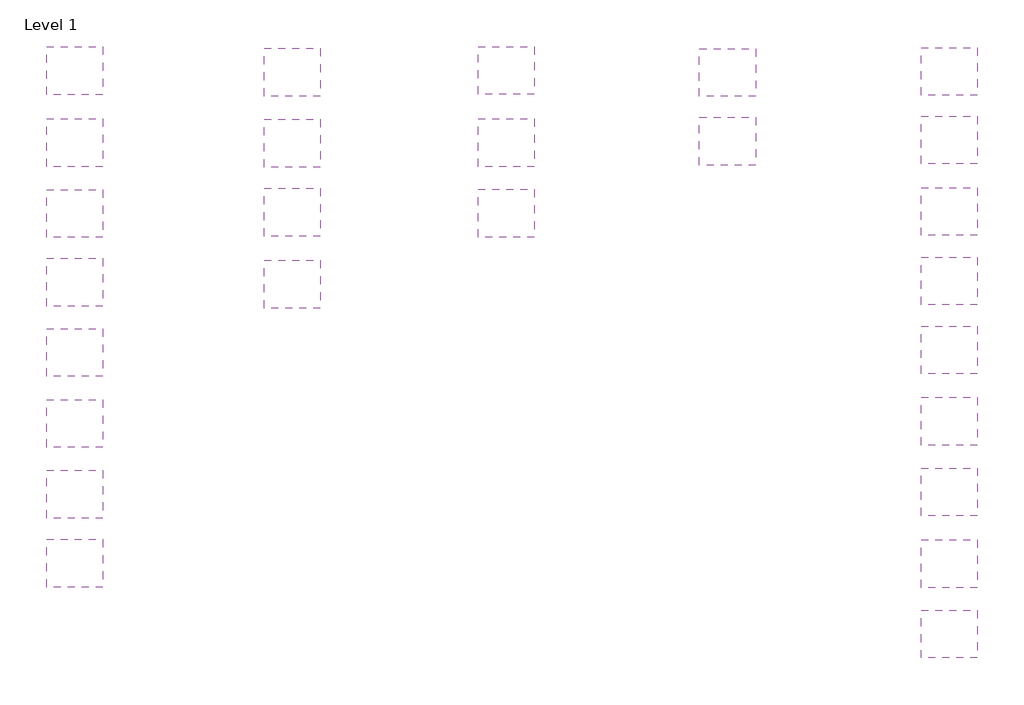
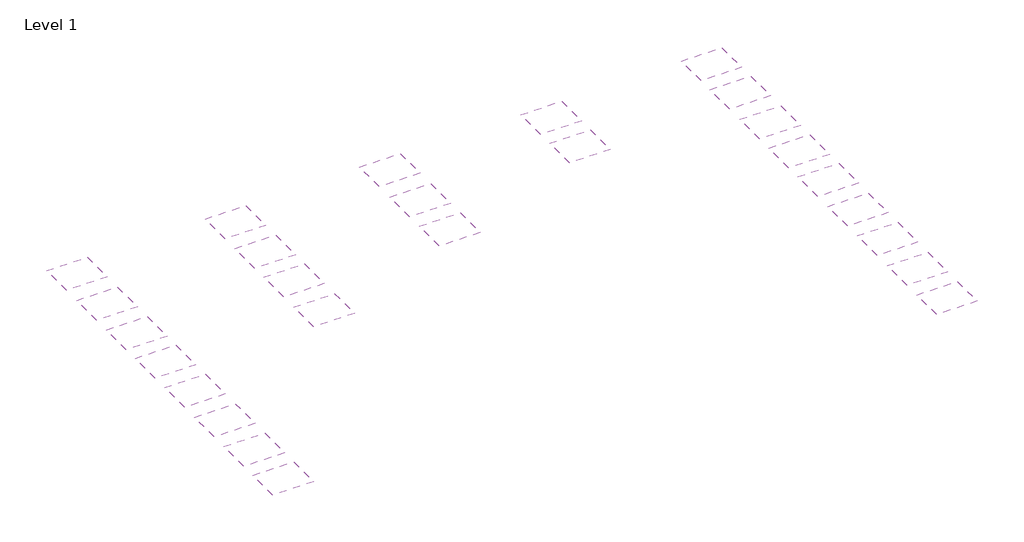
# One storey: 26 coverings.
"""IFC4 building model written with IfcOpenShell, lengths in millimetres."""

from ifc_helpers import new_model, si_unit, frame, origin, place, context, project, spatial, polyline, outline, extrude, element, save

model = new_model("IFC4")

# Units and contexts
model_context = context("Model", 3, world=origin())
ifc_project = project(units=[si_unit("LENGTHUNIT", "METRE", prefix="MILLI")], contexts=[model_context])

# Site, building, storey
site = spatial("IfcSite", under=ifc_project)
building = spatial("IfcBuilding", under=site)
storey = spatial("IfcBuildingStorey", under=building, Name="Level 1", Elevation=0.0)

# Coverings
placement = place(None, origin())
element("IfcCovering", 1, ObjectType="LD AP+ 400 FF", at=placement, inside=storey, context=model_context, shape_type="SweptSolid", body=[
    extrude(outline(polyline([(-26482.5188823, -45919.1829499), (-26482.5188823, -49319.1829499), (-30482.5188823, -49319.1829499), (-30482.5188823, -45919.1829499), (-26482.5188823, -45919.1829499)])), frame((0.0, 0.0, 5277.5), z_axis=(0.0, 0.0, 1.0), x_axis=(1.0, 0.0, 0.0)), (0.0, 0.0, 1.0), 55.0000018),
])
element("IfcCovering", 2, ObjectType="LD AP+ 400 AA", at=placement, inside=storey, context=model_context, shape_type="SweptSolid", body=[
    extrude(outline(polyline([(-26482.5188823, -30939.0532588), (-26482.5188823, -34339.0532588), (-30482.5188823, -34339.0532588), (-30482.5188823, -30939.0532588), (-26482.5188823, -30939.0532588)])), frame((0.0, 0.0, 5277.5), z_axis=(0.0, 0.0, 1.0), x_axis=(1.0, 0.0, 0.0)), (0.0, 0.0, 1.0), 50.0000016),
])
element("IfcCovering", 3, ObjectType="LD CD1 312 LL", at=placement, inside=storey, context=model_context, shape_type="SweptSolid", body=[
    extrude(outline(polyline([(-26482.5188823, -25939.3429611), (-26482.5188823, -29339.3429611), (-30482.5188823, -29339.3429611), (-30482.5188823, -25939.3429611), (-26482.5188823, -25939.3429611)])), frame((0.0, 0.0, 5277.5), z_axis=(0.0, 0.0, 1.0), x_axis=(1.0, 0.0, 0.0)), (0.0, 0.0, 1.0), 70.0000022),
])
element("IfcCovering", 4, ObjectType="LD CD1 450 FF", at=placement, inside=storey, context=model_context, shape_type="SweptSolid", body=[
    extrude(outline(polyline([(-26482.5188823, -35988.8759683), (-26482.5188823, -39388.8759683), (-30482.5188823, -39388.8759683), (-30482.5188823, -35988.8759683), (-26482.5188823, -35988.8759683)])), frame((0.0, 0.0, 5277.5), z_axis=(0.0, 0.0, 1.0), x_axis=(1.0, 0.0, 0.0)), (0.0, 0.0, 1.0), 70.0000022),
])
element("IfcCovering", 5, ObjectType="LD CD1 450 AA", at=placement, inside=storey, context=model_context, shape_type="SweptSolid", body=[
    extrude(outline(polyline([(-26482.5188823, -10905.5741733), (-26482.5188823, -14305.5741733), (-30482.5188823, -14305.5741733), (-30482.5188823, -10905.5741733), (-26482.5188823, -10905.5741733)])), frame((0.0, 0.0, 5277.5), z_axis=(0.0, 0.0, 1.0), x_axis=(1.0, 0.0, 0.0)), (0.0, 0.0, 1.0), 65.0000021),
])
element("IfcCovering", 6, ObjectType="LD S25 300 Plank", at=placement, inside=storey, context=model_context, shape_type="SweptSolid", body=[
    extrude(outline(polyline([(-26482.5188823, -21063.986899), (-26482.5188823, -24463.986899), (-30482.5188823, -24463.986899), (-30482.5188823, -21063.986899), (-26482.5188823, -21063.986899)])), frame((0.0, 0.0, 5277.5), z_axis=(0.0, 0.0, 1.0), x_axis=(1.0, 0.0, 0.0)), (0.0, 0.0, 1.0), 37.5000012),
])
element("IfcCovering", 7, ObjectType="LD S25 450 FF", at=placement, inside=storey, context=model_context, shape_type="SweptSolid", body=[
    extrude(outline(polyline([(-26482.5188823, -41007.384763), (-26482.5188823, -44407.384763), (-30482.5188823, -44407.384763), (-30482.5188823, -41007.384763), (-26482.5188823, -41007.384763)])), frame((0.0, 0.0, 5277.5), z_axis=(0.0, 0.0, 1.0), x_axis=(1.0, 0.0, 0.0)), (0.0, 0.0, 1.0), 55.0000018),
])
element("IfcCovering", 8, ObjectType="LD S25 450 AA", at=placement, inside=storey, context=model_context, shape_type="SweptSolid", body=[
    extrude(outline(polyline([(-26482.5188823, -16024.1004101), (-26482.5188823, -19424.1004101), (-30482.5188823, -19424.1004101), (-30482.5188823, -16024.1004101), (-26482.5188823, -16024.1004101)])), frame((0.0, 0.0, 5277.5), z_axis=(0.0, 0.0, 1.0), x_axis=(1.0, 0.0, 0.0)), (0.0, 0.0, 1.0), 50.0000016),
])
element("IfcCovering", 9, ObjectType="LN CD1 450 AA", at=placement, inside=storey, context=model_context, shape_type="SweptSolid", body=[
    extrude(outline(polyline([(-11012.1916508, -16072.5822959), (-11012.1916508, -19472.5822959), (-15012.1916508, -19472.5822959), (-15012.1916508, -16072.5822959), (-11012.1916508, -16072.5822959)])), frame((0.0, 0.0, 5277.5), z_axis=(0.0, 0.0, 1.0), x_axis=(1.0, 0.0, 0.0)), (0.0, 0.0, 1.0), 145.0000046),
])
element("IfcCovering", 10, ObjectType="LN CD2 300 QS", at=placement, inside=storey, context=model_context, shape_type="SweptSolid", body=[
    extrude(outline(polyline([(-11012.1916508, -26076.1994928), (-11012.1916508, -29476.1994928), (-15012.1916508, -29476.1994928), (-15012.1916508, -26076.1994928), (-11012.1916508, -26076.1994928)])), frame((0.0, 0.0, 5277.5), z_axis=(0.0, 0.0, 1.0), x_axis=(1.0, 0.0, 0.0)), (0.0, 0.0, 1.0), 175.0000056),
])
element("IfcCovering", 11, ObjectType="LN CD2 450 AA", at=placement, inside=storey, context=model_context, shape_type="SweptSolid", body=[
    extrude(outline(polyline([(-11012.1916508, -20974.0920899), (-11012.1916508, -24374.0920899), (-15012.1916508, -24374.0920899), (-15012.1916508, -20974.0920899), (-11012.1916508, -20974.0920899)])), frame((0.0, 0.0, 5277.5), z_axis=(0.0, 0.0, 1.0), x_axis=(1.0, 0.0, 0.0)), (0.0, 0.0, 1.0), 175.0000056),
])
element("IfcCovering", 12, ObjectType="LN P45-S25 450 AA", at=placement, inside=storey, context=model_context, shape_type="SweptSolid", body=[
    extrude(outline(polyline([(-11012.1916508, -11022.1896676), (-11012.1916508, -14422.1896676), (-15012.1916508, -14422.1896676), (-15012.1916508, -11022.1896676), (-11012.1916508, -11022.1896676)])), frame((0.0, 0.0, 5277.5), z_axis=(0.0, 0.0, 1.0), x_axis=(1.0, 0.0, 0.0)), (0.0, 0.0, 1.0), 125.000004),
])
element("IfcCovering", 13, ObjectType="LA CD2 AOP 450 LL", at=placement, inside=storey, context=model_context, shape_type="SweptSolid", body=[
    extrude(outline(polyline([(4198.1755462, -16038.491054), (4198.1755462, -19438.491054), (198.1755462, -19438.491054), (198.1755462, -16038.491054), (4198.1755462, -16038.491054)])), frame((0.0, 0.0, 5277.5), z_axis=(0.0, 0.0, 1.0), x_axis=(1.0, 0.0, 0.0)), (0.0, 0.0, 1.0), 185.0000059),
])
element("IfcCovering", 14, ObjectType="LA CD2 AOP 450 AA", at=placement, inside=storey, context=model_context, shape_type="SweptSolid", body=[
    extrude(outline(polyline([(4198.1755462, -21042.7586104), (4198.1755462, -24442.7586104), (198.1755462, -24442.7586104), (198.1755462, -21042.7586104), (4198.1755462, -21042.7586104)])), frame((0.0, 0.0, 5277.5), z_axis=(0.0, 0.0, 1.0), x_axis=(1.0, 0.0, 0.0)), (0.0, 0.0, 1.0), 185.0000059),
])
element("IfcCovering", 15, ObjectType="LA CD2 AOS 450 AA", at=placement, inside=storey, context=model_context, shape_type="SweptSolid", body=[
    extrude(outline(polyline([(4198.1755462, -10889.8696257), (4198.1755462, -14289.8696257), (198.1755462, -14289.8696257), (198.1755462, -10889.8696257), (4198.1755462, -10889.8696257)])), frame((0.0, 0.0, 5277.5), z_axis=(0.0, 0.0, 1.0), x_axis=(1.0, 0.0, 0.0)), (0.0, 0.0, 1.0), 165.0000053),
])
element("IfcCovering", 16, ObjectType="LL LB-S25 450 FF", at=placement, inside=storey, context=model_context, shape_type="SweptSolid", body=[
    extrude(outline(polyline([(19933.7681715, -15916.6333587), (19933.7681715, -19316.6333587), (15933.7681715, -19316.6333587), (15933.7681715, -15916.6333587), (19933.7681715, -15916.6333587)])), frame((0.0, 0.0, 5277.5), z_axis=(0.0, 0.0, 1.0), x_axis=(1.0, 0.0, 0.0)), (0.0, 0.0, 1.0), 80.0000026),
])
element("IfcCovering", 17, ObjectType="LL LB-S25 450 AA", at=placement, inside=storey, context=model_context, shape_type="SweptSolid", body=[
    extrude(outline(polyline([(19933.7681715, -11038.1984592), (19933.7681715, -14438.1984592), (15933.7681715, -14438.1984592), (15933.7681715, -11038.1984592), (19933.7681715, -11038.1984592)])), frame((0.0, 0.0, 5277.5), z_axis=(0.0, 0.0, 1.0), x_axis=(1.0, 0.0, 0.0)), (0.0, 0.0, 1.0), 75.0000024),
])
element("IfcCovering", 18, ObjectType="LF FR70 450 AA", at=placement, inside=storey, context=model_context, shape_type="SweptSolid", body=[
    extrude(outline(polyline([(35693.2113747, -40851.0592209), (35693.2113747, -44251.0592209), (31693.2113747, -44251.0592209), (31693.2113747, -40851.0592209), (35693.2113747, -40851.0592209)])), frame((0.0, 0.0, 5277.5), z_axis=(0.0, 0.0, 1.0), x_axis=(1.0, 0.0, 0.0)), (0.0, 0.0, 1.0), 105.0000034),
])
element("IfcCovering", 19, ObjectType="LF FR95 450 AA", at=placement, inside=storey, context=model_context, shape_type="SweptSolid", body=[
    extrude(outline(polyline([(35693.2113747, -45951.5626919), (35693.2113747, -49351.5626919), (31693.2113747, -49351.5626919), (31693.2113747, -45951.5626919), (35693.2113747, -45951.5626919)])), frame((0.0, 0.0, 5277.5), z_axis=(0.0, 0.0, 1.0), x_axis=(1.0, 0.0, 0.0)), (0.0, 0.0, 1.0), 130.0000042),
])
element("IfcCovering", 20, ObjectType="LF FR120 450 AA", at=placement, inside=storey, context=model_context, shape_type="SweptSolid", body=[
    extrude(outline(polyline([(35693.2113747, -50955.8302484), (35693.2113747, -54355.8302484), (31693.2113747, -54355.8302484), (31693.2113747, -50955.8302484), (35693.2113747, -50955.8302484)])), frame((0.0, 0.0, 5277.5), z_axis=(0.0, 0.0, 1.0), x_axis=(1.0, 0.0, 0.0)), (0.0, 0.0, 1.0), 155.000005),
])
element("IfcCovering", 21, ObjectType="LF KR70 450 AA", at=placement, inside=storey, context=model_context, shape_type="SweptSolid", body=[
    extrude(outline(polyline([(35693.2113747, -25853.7734482), (35693.2113747, -29253.7734482), (31693.2113747, -29253.7734482), (31693.2113747, -25853.7734482), (35693.2113747, -25853.7734482)])), frame((0.0, 0.0, 5277.5), z_axis=(0.0, 0.0, 1.0), x_axis=(1.0, 0.0, 0.0)), (0.0, 0.0, 1.0), 105.0000034),
])
element("IfcCovering", 22, ObjectType="LF KR95 450 AA", at=placement, inside=storey, context=model_context, shape_type="SweptSolid", body=[
    extrude(outline(polyline([(35693.2113747, -30761.8050901), (35693.2113747, -34161.8050901), (31693.2113747, -34161.8050901), (31693.2113747, -30761.8050901), (35693.2113747, -30761.8050901)])), frame((0.0, 0.0, 5277.5), z_axis=(0.0, 0.0, 1.0), x_axis=(1.0, 0.0, 0.0)), (0.0, 0.0, 1.0), 130.0000042),
])
element("IfcCovering", 23, ObjectType="LF KR120 450 AA", at=placement, inside=storey, context=model_context, shape_type="SweptSolid", body=[
    extrude(outline(polyline([(35693.2113747, -35830.2299229), (35693.2113747, -39230.2299229), (31693.2113747, -39230.2299229), (31693.2113747, -35830.2299229), (35693.2113747, -35830.2299229)])), frame((0.0, 0.0, 5277.5), z_axis=(0.0, 0.0, 1.0), x_axis=(1.0, 0.0, 0.0)), (0.0, 0.0, 1.0), 155.000005),
])
element("IfcCovering", 24, ObjectType="LF MR70 450 AA", at=placement, inside=storey, context=model_context, shape_type="SweptSolid", body=[
    extrude(outline(polyline([(35693.2113747, -10960.7896469), (35693.2113747, -14360.7896469), (31693.2113747, -14360.7896469), (31693.2113747, -10960.7896469), (35693.2113747, -10960.7896469)])), frame((0.0, 0.0, 5277.5), z_axis=(0.0, 0.0, 1.0), x_axis=(1.0, 0.0, 0.0)), (0.0, 0.0, 1.0), 105.0000034),
])
element("IfcCovering", 25, ObjectType="LF MR95 450 AA", at=placement, inside=storey, context=model_context, shape_type="SweptSolid", body=[
    extrude(outline(polyline([(35693.2113747, -15829.444579), (35693.2113747, -19229.444579), (31693.2113747, -19229.444579), (31693.2113747, -15829.444579), (35693.2113747, -15829.444579)])), frame((0.0, 0.0, 5277.5), z_axis=(0.0, 0.0, 1.0), x_axis=(1.0, 0.0, 0.0)), (0.0, 0.0, 1.0), 130.0000042),
])
element("IfcCovering", 26, ObjectType="LF MR120 450 AA", at=placement, inside=storey, context=model_context, shape_type="SweptSolid", body=[
    extrude(outline(polyline([(35693.2113747, -20921.3389455), (35693.2113747, -24321.3389455), (31693.2113747, -24321.3389455), (31693.2113747, -20921.3389455), (35693.2113747, -20921.3389455)])), frame((0.0, 0.0, 5277.5), z_axis=(0.0, 0.0, 1.0), x_axis=(1.0, 0.0, 0.0)), (0.0, 0.0, 1.0), 155.000005),
])

save(model, "model.ifc")
